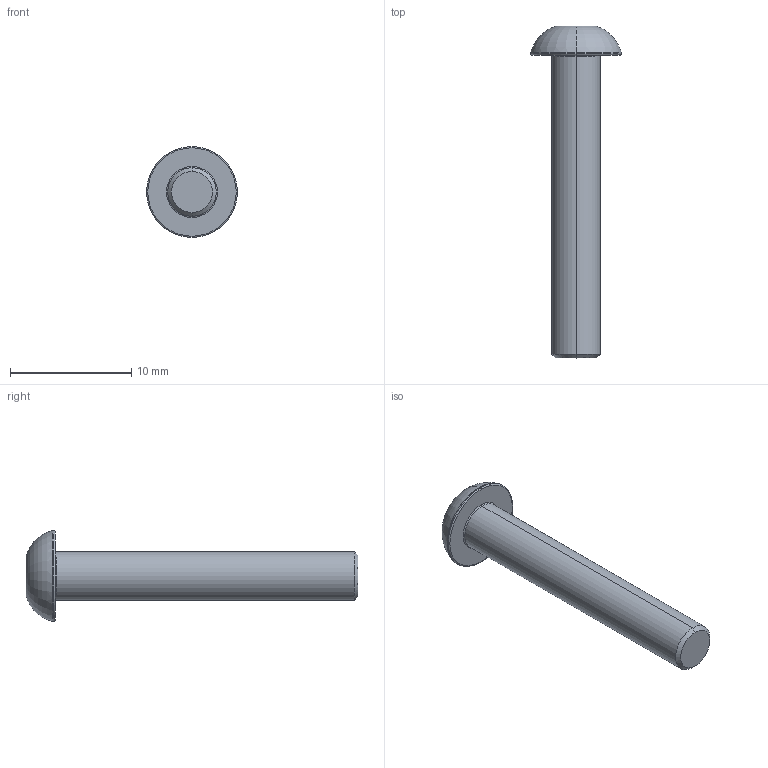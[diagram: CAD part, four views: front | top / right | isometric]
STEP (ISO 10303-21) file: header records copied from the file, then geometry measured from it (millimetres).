
FILE_DESCRIPTION (( 'STEP AP203' ), '1' );
FILE_NAME ('LGDD-TD-M4x25.STEP', '2026-08-14T01:19:55', ( '' ), ( '' ), 'SwSTEP 2.0', 'SolidWorks 2020', '' );
FILE_SCHEMA (( 'CONFIG_CONTROL_DESIGN' ));
Length unit declared in the file: millimetre
Products named in the file (1): LGDD-TD-M4x25
Bounding box: 7.5 x 27.4 x 7.5 mm (x, y, z)
Volume: 380.8 mm3; surface area: 439.9 mm2
Topology: 1 solids, 1 shells, 31 faces, 59 edges, 32 vertices
Faces by surface type: plane 10, cone 9, torus 8, cylinder 4
Entity records: 864 total; most frequent: CARTESIAN_POINT 154, DIRECTION 149, ORIENTED_EDGE 118, AXIS2_PLACEMENT_3D 65, EDGE_CURVE 59, CIRCLE 33, EDGE_LOOP 33, VERTEX_POINT 32
